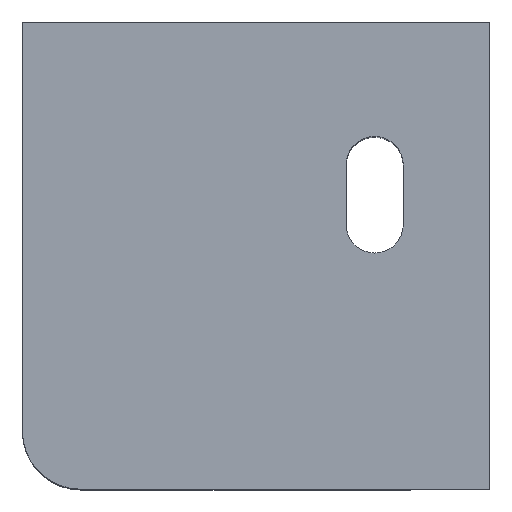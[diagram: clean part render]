
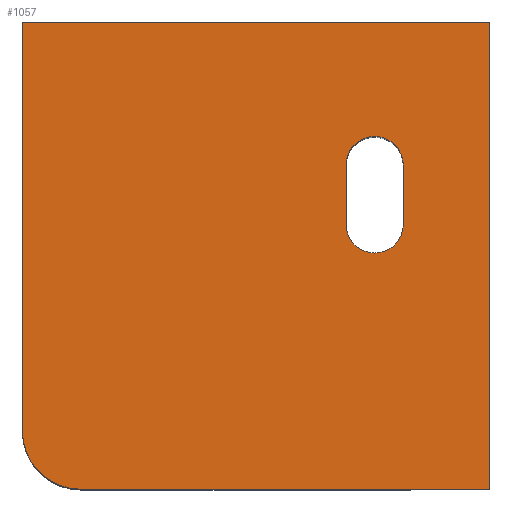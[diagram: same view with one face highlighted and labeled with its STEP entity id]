
A CAD part, top view. The second image highlights one B-rep face of the part: STEP entity #1057.
In plain terms, the highlighted planar face has unit normal (0, 0, 1).
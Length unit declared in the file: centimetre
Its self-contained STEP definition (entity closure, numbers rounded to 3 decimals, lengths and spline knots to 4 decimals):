
#6 = VERTEX_POINT ( 'NONE', #363 ) ;
#32 = DIRECTION ( 'NONE',  ( 0., 0., 1. ) ) ;
#39 = LINE ( 'NONE', #1587, #664 ) ;
#60 = EDGE_CURVE ( 'NONE', #773, #1561, #1253, .T. ) ;
#158 = CARTESIAN_POINT ( 'NONE',  ( 124.6147, 0., 1000. ) ) ;
#174 = EDGE_CURVE ( 'NONE', #332, #209, #1135, .T. ) ;
#197 = EDGE_CURVE ( 'NONE', #6, #332, #1121, .T. ) ;
#201 = ORIENTED_EDGE ( 'NONE', *, *, #1306, .T. ) ;
#209 = VERTEX_POINT ( 'NONE', #158 ) ;
#222 = DIRECTION ( 'NONE',  ( 0., 0., 1. ) ) ;
#292 = FACE_OUTER_BOUND ( 'NONE', #1653, .T. ) ;
#320 = DIRECTION ( 'NONE',  ( 0., -1., 0. ) ) ;
#332 = VERTEX_POINT ( 'NONE', #990 ) ;
#348 = DIRECTION ( 'NONE',  ( 1., 0., 0. ) ) ;
#361 = ORIENTED_EDGE ( 'NONE', *, *, #1155, .T. ) ;
#363 = CARTESIAN_POINT ( 'NONE',  ( 0., 1000., 1000. ) ) ;
#376 = LINE ( 'NONE', #647, #377 ) ;
#377 = VECTOR ( 'NONE', #1495, 100. ) ;
#389 = CIRCLE ( 'NONE', #609, 61.2949 ) ;
#406 = VECTOR ( 'NONE', #1272, 100. ) ;
#424 = CARTESIAN_POINT ( 'NONE',  ( 124.6147, 124.6147, 1000. ) ) ;
#434 = LINE ( 'NONE', #692, #775 ) ;
#438 = DIRECTION ( 'NONE',  ( 0., 0., 1. ) ) ;
#450 = DIRECTION ( 'NONE',  ( -1., 0., 0. ) ) ;
#478 = VERTEX_POINT ( 'NONE', #735 ) ;
#486 = CARTESIAN_POINT ( 'NONE',  ( 753.9664, 566.7925, 1000. ) ) ;
#493 = EDGE_CURVE ( 'NONE', #1561, #1760, #39, .T. ) ;
#531 = LINE ( 'NONE', #671, #406 ) ;
#537 = EDGE_CURVE ( 'NONE', #1760, #1671, #389, .T. ) ;
#594 = CARTESIAN_POINT ( 'NONE',  ( 753.9664, 693.6204, 1000. ) ) ;
#598 = VERTEX_POINT ( 'NONE', #632 ) ;
#609 = AXIS2_PLACEMENT_3D ( 'NONE', #486, #222, #932 ) ;
#632 = CARTESIAN_POINT ( 'NONE',  ( 1000., 1000., 1000. ) ) ;
#647 = CARTESIAN_POINT ( 'NONE',  ( 0., 1000., 1000. ) ) ;
#655 = CARTESIAN_POINT ( 'NONE',  ( 815.2614, 566.7925, 1000. ) ) ;
#664 = VECTOR ( 'NONE', #320, 100. ) ;
#671 = CARTESIAN_POINT ( 'NONE',  ( 815.2614, 693.6204, 1000. ) ) ;
#692 = CARTESIAN_POINT ( 'NONE',  ( 0., 0., 1000. ) ) ;
#700 = CARTESIAN_POINT ( 'NONE',  ( 692.6715, 566.7925, 1000. ) ) ;
#735 = CARTESIAN_POINT ( 'NONE',  ( 1000., 0., 1000. ) ) ;
#738 = FACE_BOUND ( 'NONE', #1335, .T. ) ;
#773 = VERTEX_POINT ( 'NONE', #1217 ) ;
#775 = VECTOR ( 'NONE', #1101, 100. ) ;
#912 = LINE ( 'NONE', #1051, #1651 ) ;
#932 = DIRECTION ( 'NONE',  ( -1., 0., 0. ) ) ;
#941 = ORIENTED_EDGE ( 'NONE', *, *, #60, .F. ) ;
#953 = VECTOR ( 'NONE', #1143, 100. ) ;
#990 = CARTESIAN_POINT ( 'NONE',  ( 0., 124.6147, 1000. ) ) ;
#1023 = EDGE_CURVE ( 'NONE', #1671, #773, #531, .T. ) ;
#1051 = CARTESIAN_POINT ( 'NONE',  ( 1000., 1000., 1000. ) ) ;
#1057 = ADVANCED_FACE ( 'NONE', ( #738, #292 ), #1140, .T. ) ;
#1101 = DIRECTION ( 'NONE',  ( 1., 0., 0. ) ) ;
#1102 = AXIS2_PLACEMENT_3D ( 'NONE', #424, #1714, #1694 ) ;
#1121 = LINE ( 'NONE', #1421, #953 ) ;
#1135 = CIRCLE ( 'NONE', #1102, 124.6147 ) ;
#1140 = PLANE ( 'NONE',  #1423 ) ;
#1143 = DIRECTION ( 'NONE',  ( 0., -1., 0. ) ) ;
#1155 = EDGE_CURVE ( 'NONE', #478, #598, #912, .T. ) ;
#1180 = ORIENTED_EDGE ( 'NONE', *, *, #197, .T. ) ;
#1205 = ORIENTED_EDGE ( 'NONE', *, *, #493, .F. ) ;
#1217 = CARTESIAN_POINT ( 'NONE',  ( 815.2614, 693.6204, 1000. ) ) ;
#1253 = CIRCLE ( 'NONE', #1490, 61.2949 ) ;
#1272 = DIRECTION ( 'NONE',  ( 0., 1., 0. ) ) ;
#1295 = ORIENTED_EDGE ( 'NONE', *, *, #174, .T. ) ;
#1301 = CARTESIAN_POINT ( 'NONE',  ( 0., 0., 1000. ) ) ;
#1306 = EDGE_CURVE ( 'NONE', #209, #478, #434, .T. ) ;
#1335 = EDGE_LOOP ( 'NONE', ( #1681, #1205, #941, #1419 ) ) ;
#1419 = ORIENTED_EDGE ( 'NONE', *, *, #1023, .F. ) ;
#1421 = CARTESIAN_POINT ( 'NONE',  ( 0., 1000., 1000. ) ) ;
#1423 = AXIS2_PLACEMENT_3D ( 'NONE', #1301, #32, #348 ) ;
#1490 = AXIS2_PLACEMENT_3D ( 'NONE', #594, #438, #450 ) ;
#1495 = DIRECTION ( 'NONE',  ( -1., 0., 0. ) ) ;
#1561 = VERTEX_POINT ( 'NONE', #1768 ) ;
#1587 = CARTESIAN_POINT ( 'NONE',  ( 692.6715, 566.7925, 1000. ) ) ;
#1635 = ORIENTED_EDGE ( 'NONE', *, *, #1666, .T. ) ;
#1651 = VECTOR ( 'NONE', #1655, 100. ) ;
#1653 = EDGE_LOOP ( 'NONE', ( #1180, #1295, #201, #361, #1635 ) ) ;
#1655 = DIRECTION ( 'NONE',  ( 0., 1., 0. ) ) ;
#1666 = EDGE_CURVE ( 'NONE', #598, #6, #376, .T. ) ;
#1671 = VERTEX_POINT ( 'NONE', #655 ) ;
#1681 = ORIENTED_EDGE ( 'NONE', *, *, #537, .F. ) ;
#1694 = DIRECTION ( 'NONE',  ( 1., 0., 0. ) ) ;
#1714 = DIRECTION ( 'NONE',  ( 0., 0., 1. ) ) ;
#1760 = VERTEX_POINT ( 'NONE', #700 ) ;
#1768 = CARTESIAN_POINT ( 'NONE',  ( 692.6715, 693.6204, 1000. ) ) ;
